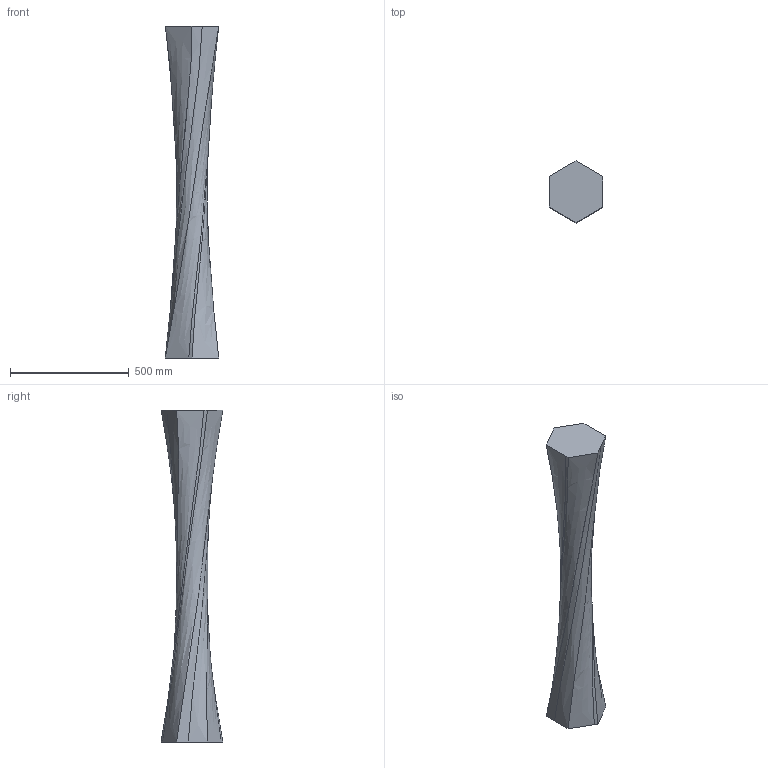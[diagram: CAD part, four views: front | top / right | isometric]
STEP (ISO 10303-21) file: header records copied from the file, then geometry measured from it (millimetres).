
FILE_DESCRIPTION ((), '1');
FILE_NAME ('Z:\home\david\Escritorio\lampara.step', '2012-07-10T00:46:38', ('Unknown'), ('Unknown'), 'HarmonyWare STEP v1.4.9', 'HarmonyWare Translators', '');
FILE_SCHEMA (('CONFIG_CONTROL_DESIGN'));
Length unit declared in the file: millimetre
Products named in the file (1): product-name
Bounding box: 225.17 x 260 x 1400 mm (x, y, z)
Volume: 31914868.3 mm3; surface area: 837324.7 mm2
Topology: 1 solids, 1 shells, 16 faces, 39 edges, 25 vertices
Faces by surface type: bspline 16
Entity records: 3985 total; most frequent: CARTESIAN_POINT 3648, ORIENTED_EDGE 76, EDGE_CURVE 38, B_SPLINE_CURVE_WITH_KNOTS 35, VERTEX_POINT 25, EDGE_LOOP 17, FACE_OUTER_BOUND 16, ADVANCED_FACE 16
